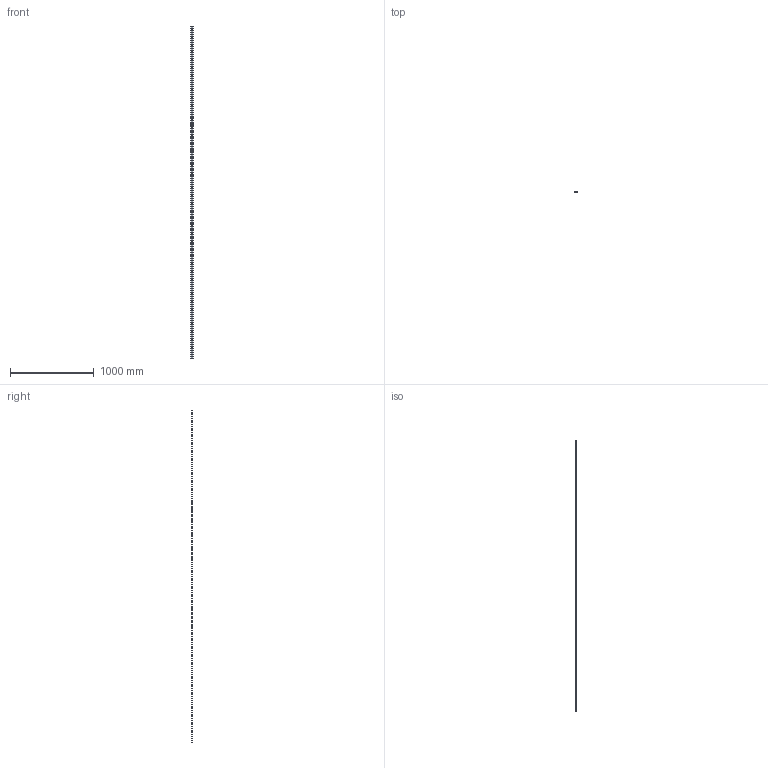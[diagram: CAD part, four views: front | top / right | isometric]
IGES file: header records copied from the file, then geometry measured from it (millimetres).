
Start section: 3D InterOp IGES (v. 2019 1.0.2), Spatial Corp. Copyright (c) 1999-2017.
Global section: file name: SS S25 3956.igs; native system: Spatial Corp.; preprocessor: 3D InterOp GENERIC/IGES 3.0; author: Noname; organization: Noname; date: 20220628.112210; units: millimetre
Bounding box: 24.68 x 4.7 x 3956 mm (x, y, z)
Surface area: 211674 mm2 (no closed solid volume)
Topology: 0 solids, 0 shells, 100 faces, 588 edges, 588 vertices
Faces by surface type: revolution 92, extrusion 8
